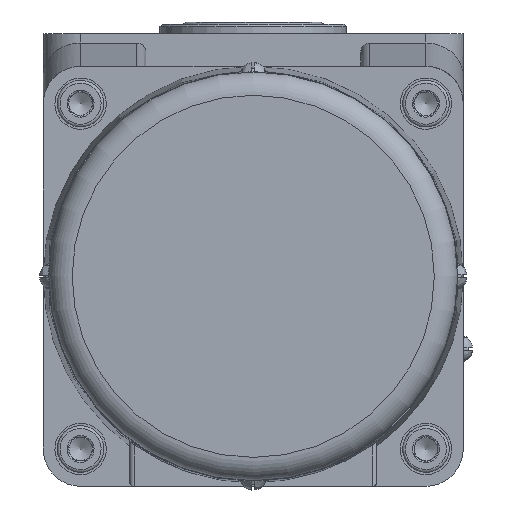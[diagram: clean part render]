
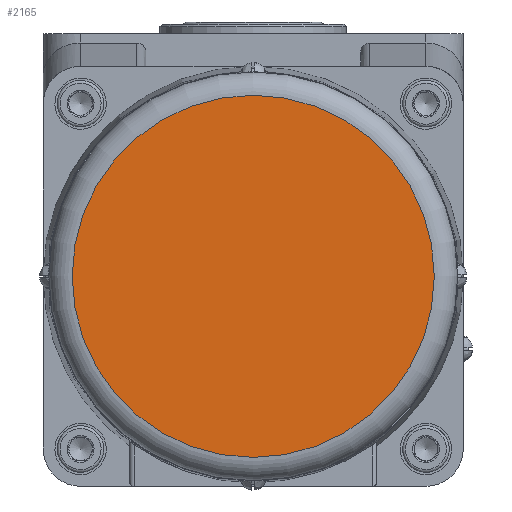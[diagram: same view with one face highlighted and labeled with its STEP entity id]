
A CAD part, front view. The second image highlights one B-rep face of the part: STEP entity #2165.
In plain terms, the highlighted planar face has unit normal (0, -1, 0).
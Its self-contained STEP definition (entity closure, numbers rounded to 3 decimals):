
#2165=ADVANCED_FACE('',(#3151),#2790,.F.);
#2790=PLANE('',#11988);
#3151=FACE_OUTER_BOUND('',#3757,.T.);
#3757=EDGE_LOOP('',(#5097));
#5097=ORIENTED_EDGE('',*,*,#8546,.T.);
#7514=VERTEX_POINT('',#17551);
#8546=EDGE_CURVE('',#7514,#7514,#11079,.T.);
#11079=CIRCLE('',#11963,38.8);
#11963=AXIS2_PLACEMENT_3D('',#17550,#13586,#13587);
#11988=AXIS2_PLACEMENT_3D('',#17597,#13648,#13649);
#13586=DIRECTION('',(0.,-1.,0.));
#13587=DIRECTION('',(0.,0.,-1.));
#13648=DIRECTION('',(0.,1.,0.));
#13649=DIRECTION('',(0.,0.,-1.));
#17550=CARTESIAN_POINT('',(0.,-239.,-52.));
#17551=CARTESIAN_POINT('',(0.,-239.,-90.8));
#17597=CARTESIAN_POINT('',(-43.8,-239.,-52.));
